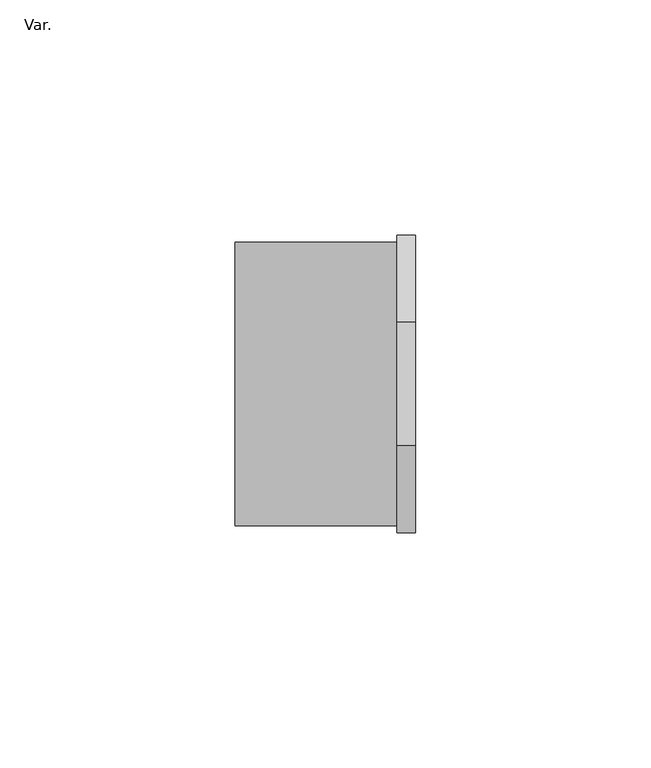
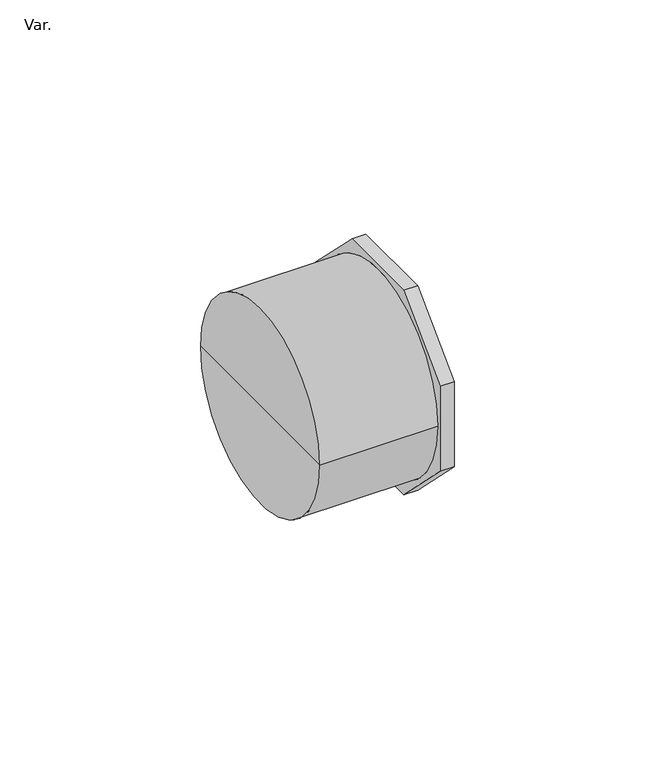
"""IFC4 building model written with IfcOpenShell, lengths in millimetres: pipe fitting geometry, AmancoWavin_Unionesdetubería_AguaPotableZNoUsarReducer : Var.."""

from ifc_helpers import new_model, si_unit, frame, origin, place, context, project, spatial, polyline, circle_curve, source, transform, mapped, element, save
from ifc_brep_helpers import plane_surface, cylinder_surface, revolved_surface, advanced_brep


def var_9b378b9b(model_context):
    return source(origin(), model_context, "Body", "AdvancedBrep", [
        advanced_brep(
        [(34.37, 31.6, 13.0891486), (34.37, 31.6, -13.0891486), (34.37, 13.0891486, -31.6), (34.37, -13.0891486, -31.6), (34.37, -31.6, -13.0891486), (34.37, -31.6, 13.0891486), (34.37, -13.0891486, 31.6), (34.37, 13.0891486, 31.6), (34.37, 30.165, 0.0), (34.37, -30.165, 0.0), (38.37, 31.6, 13.0891486), (38.37, 13.0891486, 31.6), (38.37, -13.0891486, 31.6), (38.37, -31.6, 13.0891486), (38.37, -31.6, -13.0891486), (38.37, -13.0891486, -31.6), (38.37, 13.0891486, -31.6), (38.37, 31.6, -13.0891486), (38.37, 10.72, 0.0), (38.37, -10.72, 0.0), (34.37, -10.72, 0.0), (34.37, 10.72, 0.0), (7.11, 10.72, 0.0), (7.11, 0.0, 0.0), (7.11, -10.72, 0.0), (0.0, 30.165, 0.0), (0.0, -30.165, 0.0), (0.0, 0.0, 0.0)],
        [
            (0, 1),
            (1, 2),
            (2, 3),
            (3, 4),
            (4, 5),
            (5, 6),
            (6, 7),
            (7, 0),
            (8, 9, circle_curve(frame((34.37, 0.0, 0.0), z_axis=(1.0, 0.0, 0.0), x_axis=(0.0, -1.0, 0.0)), 30.165)),
            (9, 8, circle_curve(frame((34.37, 0.0, 0.0), z_axis=(1.0, 0.0, 0.0), x_axis=(0.0, -1.0, 0.0)), 30.165)),
            (10, 11),
            (11, 12),
            (12, 13),
            (13, 14),
            (14, 15),
            (15, 16),
            (16, 17),
            (17, 10),
            (18, 19, circle_curve(frame((38.37, 0.0, 0.0), z_axis=(-1.0, 0.0, 0.0), x_axis=(0.0, -1.0, 0.0)), 10.72)),
            (19, 18, circle_curve(frame((38.37, 0.0, 0.0), z_axis=(-1.0, 0.0, 0.0), x_axis=(0.0, -1.0, 0.0)), 10.72)),
            (19, 20),
            (20, 21, circle_curve(frame((34.37, 0.0, 0.0), z_axis=(-1.0, 0.0, 0.0), x_axis=(0.0, -1.0, 0.0)), 10.72)),
            (21, 18),
            (21, 20, circle_curve(frame((34.37, 0.0, 0.0), z_axis=(-1.0, 0.0, 0.0), x_axis=(0.0, -1.0, 0.0)), 10.72)),
            (22, 23),
            (23, 24),
            (24, 22, circle_curve(frame((7.11, 0.0, 0.0), z_axis=(1.0, 0.0, 0.0), x_axis=(0.0, -1.0, 0.0)), 10.72)),
            (22, 24, circle_curve(frame((7.11, 0.0, 0.0), z_axis=(1.0, 0.0, 0.0), x_axis=(0.0, -1.0, 0.0)), 10.72)),
            (24, 20),
            (21, 22),
            (25, 8),
            (9, 26),
            (26, 25, circle_curve(frame((0.0, 0.0, 0.0), z_axis=(1.0, 0.0, 0.0), x_axis=(0.0, -1.0, 0.0)), 30.165)),
            (25, 26, circle_curve(frame((0.0, 0.0, 0.0), z_axis=(1.0, 0.0, 0.0), x_axis=(0.0, -1.0, 0.0)), 30.165)),
            (26, 27),
            (27, 25),
            (0, 10),
            (17, 1),
            (16, 2),
            (15, 3),
            (14, 4),
            (13, 5),
            (12, 6),
            (11, 7),
        ],
        [
            plane_surface(frame((34.37, -10.72, 0.0), z_axis=(-1.0, 0.0, 0.0), x_axis=(0.0, 0.0, 1.0))),
            plane_surface(frame((38.37, -10.72, 0.0), z_axis=(1.0, 0.0, 0.0), x_axis=(0.0, 0.0, -1.0))),
            revolved_surface(polyline([(34.37, -10.72, 0.0), (38.37, -10.72, 0.0)]), (34.37, 0.0, 0.0), (-1.0, 0.0, 0.0)),
            plane_surface(frame((7.11, 0.0, 0.0), z_axis=(1.0, 0.0, 0.0), x_axis=(0.0, -1.0, 0.0))),
            revolved_surface(polyline([(7.1099999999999, -10.72, 0.0), (34.36999999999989, -10.72, 0.0)]), (1820.67, 0.0, 0.0), (-1.0, 0.0, 0.0)),
            cylinder_surface(frame((1820.67, 0.0, 0.0), z_axis=(-1.0, 0.0, 0.0), x_axis=(0.0, -1.0, 0.0)), 30.165),
            plane_surface(frame((0.0, 0.0, 0.0), z_axis=(-1.0, 0.0, 0.0), x_axis=(0.0, -1.0, 0.0))),
            plane_surface(frame((38.37, 31.6, 13.0891486), z_axis=(0.0, 1.0, 0.0), x_axis=(-1.0, 0.0, 0.0))),
            plane_surface(frame((38.37, 31.6, -13.0891486), z_axis=(0.0, 0.7071067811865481, -0.7071067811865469), x_axis=(-1.0, 0.0, 0.0))),
            plane_surface(frame((38.37, 13.0891486, -31.6), z_axis=(0.0, 0.0, -1.0), x_axis=(-1.0, 0.0, 0.0))),
            plane_surface(frame((38.37, -13.0891486, -31.6), z_axis=(0.0, -0.7071067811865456, -0.7071067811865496), x_axis=(-1.0, 0.0, 0.0))),
            plane_surface(frame((38.37, -31.6, -13.0891486), z_axis=(0.0, -1.0, 0.0), x_axis=(-1.0, 0.0, 0.0))),
            plane_surface(frame((38.37, -31.6, 13.0891486), z_axis=(0.0, -0.7071067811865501, 0.7071067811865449), x_axis=(-1.0, 0.0, 0.0))),
            plane_surface(frame((38.37, -13.0891486, 31.6), z_axis=(0.0, 0.0, 1.0), x_axis=(-1.0, 0.0, 0.0))),
            plane_surface(frame((38.37, 13.0891486, 31.6), z_axis=(0.0, 0.7071067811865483, 0.7071067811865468), x_axis=(-1.0, 0.0, 0.0))),
        ],
        [
            (0, [[1, 2, 3, 4, 5, 6, 7, 8], [9, 10]]),
            (1, [[11, 12, 13, 14, 15, 16, 17, 18], [19, 20]]),
            (2, [[21, 22, 23, -20]]),
            (2, [[-23, 24, -21, -19]]),
            (3, [[25, 26, 27]]),
            (3, [[-25, 28, -26]]),
            (4, [[29, -24, 30, -27]]),
            (4, [[-30, -22, -29, -28]]),
            (5, [[31, -10, 32, 33]]),
            (5, [[-9, -31, 34, -32]]),
            (6, [[35, 36, -33]]),
            (6, [[-36, -35, -34]]),
            (7, [[37, -18, 38, -1]]),
            (8, [[-38, -17, 39, -2]]),
            (9, [[-39, -16, 40, -3]]),
            (10, [[-40, -15, 41, -4]]),
            (11, [[-41, -14, 42, -5]]),
            (12, [[-42, -13, 43, -6]]),
            (13, [[-43, -12, 44, -7]]),
            (14, [[-44, -11, -37, -8]]),
        ],
    ),
    ])


if __name__ == "__main__":
    model = new_model("IFC4")
    model_context = context("Model", 3, world=origin())
    ifc_project = project(units=[si_unit("LENGTHUNIT", "METRE", prefix="MILLI")], contexts=[model_context])
    site = spatial("IfcSite", under=ifc_project)
    building = spatial("IfcBuilding", under=site)
    placement = place(None, origin())
    var_shape = var_9b378b9b(model_context)
    element("IfcPipeFitting", 1, ObjectType="AmancoWavin_Unionesdetubería_AguaPotableZNoUsarReducer : Var.", at=placement, inside=building, context=model_context, shape_type="MappedRepresentation", body=[
        mapped(var_shape, transform((0.0, 0.0, 0.0), x_axis=(1.0, 0.0, 0.0), y_axis=(0.0, 1.0, 0.0), z_axis=(0.0, 0.0, 1.0))),
    ])
    save(model, "model.ifc")
